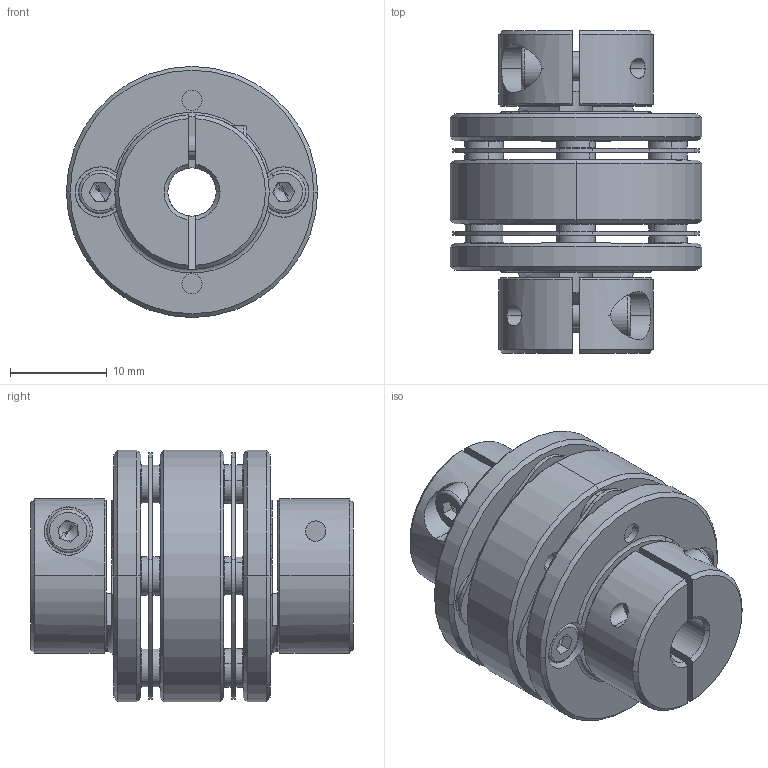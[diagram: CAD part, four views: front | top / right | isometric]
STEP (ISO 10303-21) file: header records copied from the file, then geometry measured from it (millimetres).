
FILE_DESCRIPTION (( 'STEP AP203' ), '1' );
FILE_NAME ('LE2-B-D26L35-5-5.STEP', '2021-11-01T05:42:35', ( '' ), ( '' ), 'SwSTEP 2.0', 'SolidWorks 2018', '' );
FILE_SCHEMA (( 'CONFIG_CONTROL_DESIGN' ));
Length unit declared in the file: millimetre
Products named in the file (1): LE2-B-D26L35-5-5
Bounding box: 26 x 33.4 x 26 mm (x, y, z)
Volume: 7991.8 mm3; surface area: 8436.2 mm2
Topology: 1 solids, 19 shells, 672 faces, 1560 edges, 938 vertices
Faces by surface type: cylinder 228, plane 218, cone 202, torus 24
Entity records: 19395 total; most frequent: DIRECTION 3628, CARTESIAN_POINT 3491, ORIENTED_EDGE 3080, EDGE_CURVE 1540, AXIS2_PLACEMENT_3D 1467, VERTEX_POINT 938, CIRCLE 794, EDGE_LOOP 782
